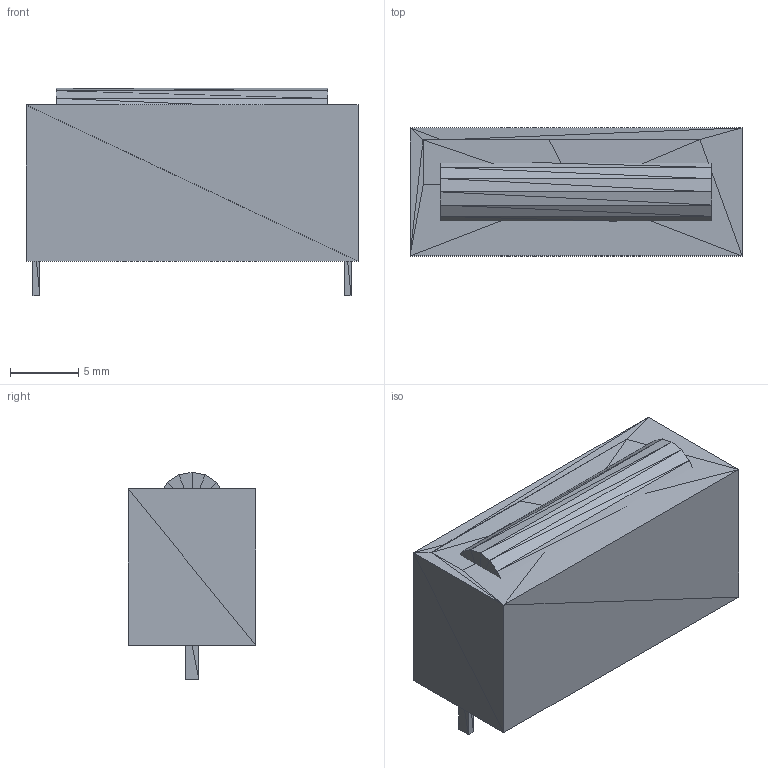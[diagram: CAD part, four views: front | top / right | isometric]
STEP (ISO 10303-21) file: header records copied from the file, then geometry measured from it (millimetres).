
FILE_DESCRIPTION(('HOOPS Exchange Step'),'2;1');
FILE_NAME('***.stp');
FILE_SCHEMA( ('AP242_MANAGED_MODEL_BASED_3D_ENGINEERING_MIM_LF {1 0 10303 442 1 1 4 }') );
Length unit declared in the file: inch
Products named in the file (5): FUSEHLDR_2; FUSEHLDR_3; FUSEHLDR_4; FUSEHLDR_5; FUSEHLDR
Assembly tree (4 placements, depth 2):
  FUSEHLDR
    FUSEHLDR_2
    FUSEHLDR_3
    FUSEHLDR_4
    FUSEHLDR_5
Bounding box: 24.38 x 9.4 x 15.24 mm (x, y, z)
Volume: 3029.6 mm3; surface area: 1623 mm2
Topology: 4 solids, 4 shells, 114 faces, 171 edges, 65 vertices
Faces by surface type: plane 114
Entity records: 2458 total; most frequent: DIRECTION 419, CARTESIAN_POINT 360, ORIENTED_EDGE 342, VECTOR 171, LINE 171, EDGE_CURVE 171, AXIS2_PLACEMENT_3D 124, PLANE 114
